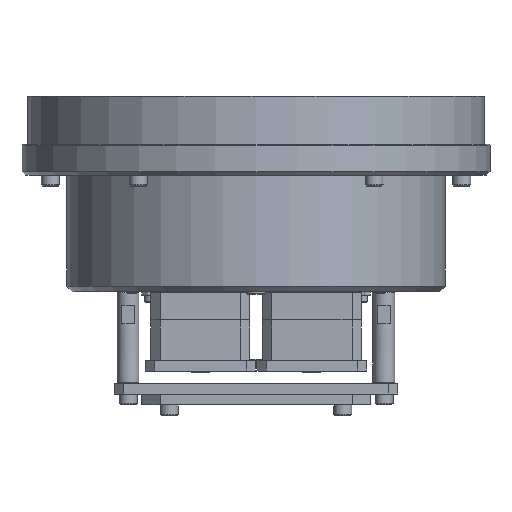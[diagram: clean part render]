
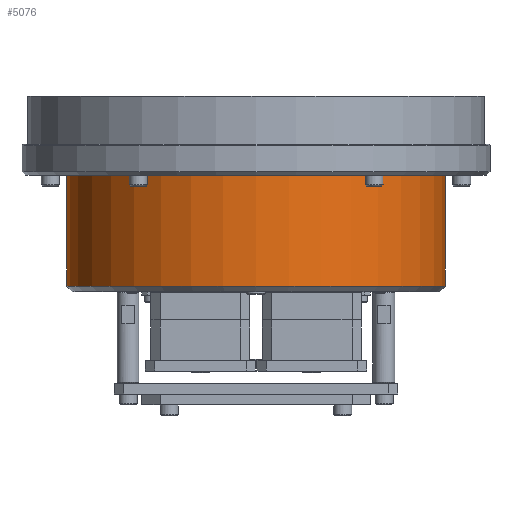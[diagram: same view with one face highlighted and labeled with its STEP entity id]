
A CAD part, left-side view. The second image highlights one B-rep face of the part: STEP entity #5076.
In plain terms, the highlighted cylindrical face has radius 103.5 mm (diameter 207 mm), a partial arc.
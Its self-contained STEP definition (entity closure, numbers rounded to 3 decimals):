
#5076=ADVANCED_FACE('',(#10557),#10558,.T.);
#10557=FACE_OUTER_BOUND('',#18772,.T.);
#10558=CYLINDRICAL_SURFACE('',#18773,103.5);
#18772=EDGE_LOOP('',(#26748,#26749,#26750,#26751));
#18773=AXIS2_PLACEMENT_3D('',#26752,#26753,#26754);
#26748=ORIENTED_EDGE('',*,*,#43313,.F.);
#26749=ORIENTED_EDGE('',*,*,#43314,.T.);
#26750=ORIENTED_EDGE('',*,*,#43315,.T.);
#26751=ORIENTED_EDGE('',*,*,#43316,.T.);
#26752=CARTESIAN_POINT('',(0.0,0.0,-63.5));
#26753=DIRECTION('',(0.0,0.0,1.0));
#26754=DIRECTION('',(-1.0,0.0,0.0));
#43313=EDGE_CURVE('',#49438,#49439,#49440,.T.);
#43314=EDGE_CURVE('',#49438,#49441,#49442,.F.);
#43315=EDGE_CURVE('',#49441,#49443,#49444,.T.);
#43316=EDGE_CURVE('',#49443,#49439,#49445,.T.);
#49438=VERTEX_POINT('',#58424);
#49439=VERTEX_POINT('',#58425);
#49440=LINE('',#58426,#58427);
#49441=VERTEX_POINT('',#58428);
#49442=CIRCLE('',#58429,103.5);
#49443=VERTEX_POINT('',#58430);
#49444=LINE('',#58431,#58432);
#49445=CIRCLE('',#58433,103.5);
#58424=CARTESIAN_POINT('',(0.0,103.5,-60.5));
#58425=CARTESIAN_POINT('',(0.0,103.5,0.2));
#58426=CARTESIAN_POINT('',(0.0,103.5,-63.5));
#58427=VECTOR('',#70928,1.0);
#58428=CARTESIAN_POINT('',(0.0,-103.5,-60.5));
#58429=AXIS2_PLACEMENT_3D('',#70929,#70930,#70931);
#58430=CARTESIAN_POINT('',(0.0,-103.5,0.2));
#58431=CARTESIAN_POINT('',(0.0,-103.5,-63.5));
#58432=VECTOR('',#70932,1.0);
#58433=AXIS2_PLACEMENT_3D('',#70933,#70934,#70935);
#70928=DIRECTION('',(0.0,0.0,1.0));
#70929=CARTESIAN_POINT('',(0.0,0.0,-60.5));
#70930=DIRECTION('',(0.0,0.0,-1.0));
#70931=DIRECTION('',(-1.0,0.0,0.0));
#70932=DIRECTION('',(0.0,0.0,1.0));
#70933=CARTESIAN_POINT('',(0.0,0.0,0.2));
#70934=DIRECTION('',(0.0,0.0,-1.0));
#70935=DIRECTION('',(1.0,0.0,0.0));
